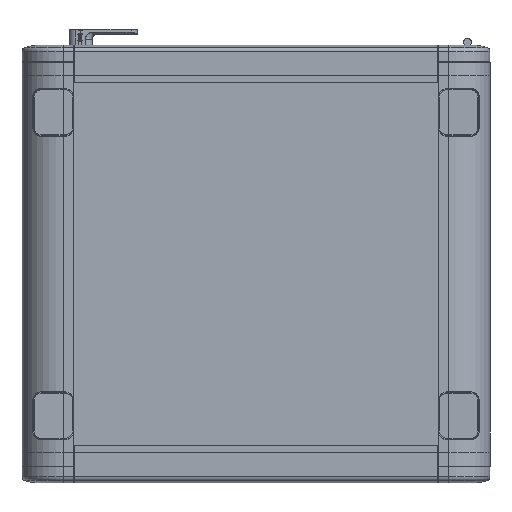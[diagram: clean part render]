
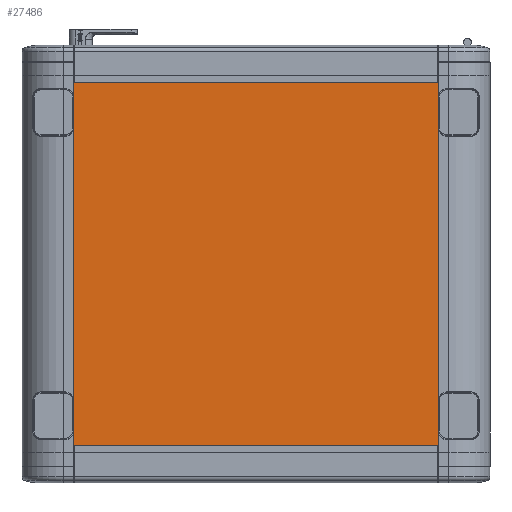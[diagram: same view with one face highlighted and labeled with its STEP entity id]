
A CAD part, front view. The second image highlights one B-rep face of the part: STEP entity #27486.
In plain terms, the highlighted planar face has unit normal (0, -1, 0).
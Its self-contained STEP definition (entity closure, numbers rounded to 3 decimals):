
#7108 = LINE ( 'NONE', #178086, #84304 ) ;
#24314 = PLANE ( 'NONE',  #33700 ) ;
#24982 = EDGE_CURVE ( 'NONE', #89854, #48906, #56616, .T. ) ;
#26501 = VERTEX_POINT ( 'NONE', #147663 ) ;
#27486 = ADVANCED_FACE ( 'NONE', ( #75374 ), #24314, .T. ) ;
#33700 = AXIS2_PLACEMENT_3D ( 'NONE', #133750, #104875, #134340 ) ;
#41193 = CARTESIAN_POINT ( 'NONE',  ( 0., -1137.5, -434.5 ) ) ;
#41847 = ORIENTED_EDGE ( 'NONE', *, *, #173096, .F. ) ;
#48906 = VERTEX_POINT ( 'NONE', #142550 ) ;
#56616 = LINE ( 'NONE', #41193, #131843 ) ;
#64278 = VECTOR ( 'NONE', #174700, 1000. ) ;
#67633 = EDGE_LOOP ( 'NONE', ( #93505, #41847, #90018, #93678 ) ) ;
#73645 = CARTESIAN_POINT ( 'NONE',  ( 445., -1137.5, 434.5 ) ) ;
#75374 = FACE_OUTER_BOUND ( 'NONE', #67633, .T. ) ;
#78361 = CARTESIAN_POINT ( 'NONE',  ( -445., -1137.5, 0. ) ) ;
#79175 = VERTEX_POINT ( 'NONE', #73645 ) ;
#82515 = CARTESIAN_POINT ( 'NONE',  ( -445., -1137.5, -434.5 ) ) ;
#84304 = VECTOR ( 'NONE', #125117, 1000. ) ;
#89854 = VERTEX_POINT ( 'NONE', #82515 ) ;
#90018 = ORIENTED_EDGE ( 'NONE', *, *, #130077, .T. ) ;
#93505 = ORIENTED_EDGE ( 'NONE', *, *, #115528, .F. ) ;
#93678 = ORIENTED_EDGE ( 'NONE', *, *, #24982, .T. ) ;
#104875 = DIRECTION ( 'NONE',  ( 0., -1., 0. ) ) ;
#115528 = EDGE_CURVE ( 'NONE', #79175, #48906, #7108, .T. ) ;
#125117 = DIRECTION ( 'NONE',  ( 0., 0., -1. ) ) ;
#130077 = EDGE_CURVE ( 'NONE', #26501, #89854, #146046, .T. ) ;
#131843 = VECTOR ( 'NONE', #149431, 1000. ) ;
#132943 = CARTESIAN_POINT ( 'NONE',  ( 0., -1137.5, 434.5 ) ) ;
#133165 = LINE ( 'NONE', #132943, #156811 ) ;
#133750 = CARTESIAN_POINT ( 'NONE',  ( 0., -1137.5, 418.5 ) ) ;
#134340 = DIRECTION ( 'NONE',  ( 0., 0., 1. ) ) ;
#142550 = CARTESIAN_POINT ( 'NONE',  ( 445., -1137.5, -434.5 ) ) ;
#146046 = LINE ( 'NONE', #78361, #64278 ) ;
#147663 = CARTESIAN_POINT ( 'NONE',  ( -445., -1137.5, 434.5 ) ) ;
#149431 = DIRECTION ( 'NONE',  ( 1., 0., 0. ) ) ;
#156811 = VECTOR ( 'NONE', #160047, 1000. ) ;
#160047 = DIRECTION ( 'NONE',  ( 1., 0., 0. ) ) ;
#173096 = EDGE_CURVE ( 'NONE', #26501, #79175, #133165, .T. ) ;
#174700 = DIRECTION ( 'NONE',  ( 0., 0., -1. ) ) ;
#178086 = CARTESIAN_POINT ( 'NONE',  ( 445., -1137.5, 0. ) ) ;
